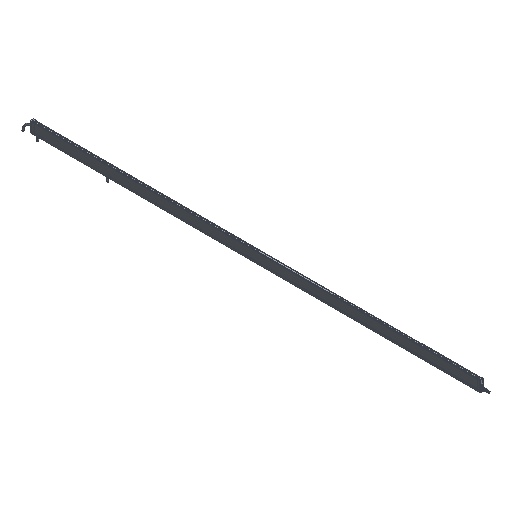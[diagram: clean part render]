
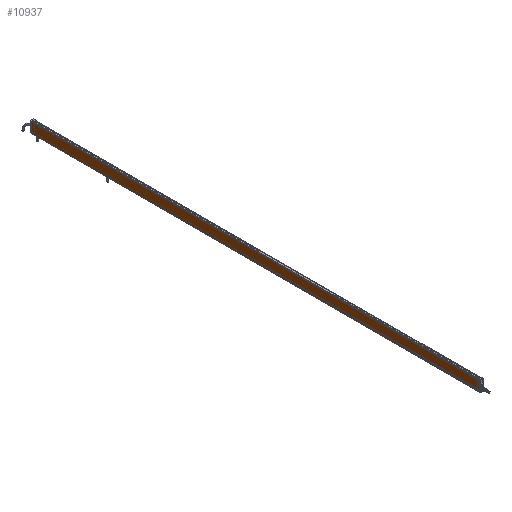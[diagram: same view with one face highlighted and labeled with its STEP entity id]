
A CAD part, isometric view. The second image highlights one B-rep face of the part: STEP entity #10937.
In plain terms, the highlighted planar face has unit normal (-1, 0, 0).
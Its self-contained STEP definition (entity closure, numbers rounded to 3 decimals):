
#221 = VECTOR ( 'NONE', #2889, 1000. ) ;
#488 = VERTEX_POINT ( 'NONE', #1244 ) ;
#566 = DIRECTION ( 'NONE',  ( 0., -1., 0. ) ) ;
#858 = ORIENTED_EDGE ( 'NONE', *, *, #18274, .F. ) ;
#1115 = CARTESIAN_POINT ( 'NONE',  ( -9., 1275., 28.5 ) ) ;
#1152 = DIRECTION ( 'NONE',  ( -1., 0., 0. ) ) ;
#1244 = CARTESIAN_POINT ( 'NONE',  ( -9., 0., 28.5 ) ) ;
#2093 = VERTEX_POINT ( 'NONE', #1115 ) ;
#2342 = EDGE_LOOP ( 'NONE', ( #5354, #858, #17251, #18777 ) ) ;
#2889 = DIRECTION ( 'NONE',  ( 0., -1., 0. ) ) ;
#4176 = AXIS2_PLACEMENT_3D ( 'NONE', #13910, #1152, #10762 ) ;
#4608 = CARTESIAN_POINT ( 'NONE',  ( -9., 1275., 28.5 ) ) ;
#4783 = LINE ( 'NONE', #10950, #16210 ) ;
#5354 = ORIENTED_EDGE ( 'NONE', *, *, #14923, .F. ) ;
#6264 = LINE ( 'NONE', #14649, #17188 ) ;
#7333 = LINE ( 'NONE', #20253, #14034 ) ;
#9809 = FACE_OUTER_BOUND ( 'NONE', #2342, .T. ) ;
#10507 = CARTESIAN_POINT ( 'NONE',  ( -9., 1275., 0.5 ) ) ;
#10762 = DIRECTION ( 'NONE',  ( 0., -1., 0. ) ) ;
#10937 = ADVANCED_FACE ( 'NONE', ( #9809 ), #16920, .T. ) ;
#10950 = CARTESIAN_POINT ( 'NONE',  ( -9., 1275., 28.5 ) ) ;
#13493 = VERTEX_POINT ( 'NONE', #17497 ) ;
#13910 = CARTESIAN_POINT ( 'NONE',  ( -9., 1275., 28.5 ) ) ;
#14034 = VECTOR ( 'NONE', #18464, 1000. ) ;
#14649 = CARTESIAN_POINT ( 'NONE',  ( -9., 1275., 0.5 ) ) ;
#14923 = EDGE_CURVE ( 'NONE', #488, #13493, #7333, .T. ) ;
#16210 = VECTOR ( 'NONE', #17516, 1000. ) ;
#16835 = VERTEX_POINT ( 'NONE', #10507 ) ;
#16891 = LINE ( 'NONE', #4608, #221 ) ;
#16920 = PLANE ( 'NONE',  #4176 ) ;
#17188 = VECTOR ( 'NONE', #566, 1000. ) ;
#17251 = ORIENTED_EDGE ( 'NONE', *, *, #20319, .T. ) ;
#17497 = CARTESIAN_POINT ( 'NONE',  ( -9., 0., 0.5 ) ) ;
#17516 = DIRECTION ( 'NONE',  ( 0., 0., -1. ) ) ;
#18274 = EDGE_CURVE ( 'NONE', #2093, #488, #16891, .T. ) ;
#18464 = DIRECTION ( 'NONE',  ( 0., 0., -1. ) ) ;
#18777 = ORIENTED_EDGE ( 'NONE', *, *, #20504, .T. ) ;
#20253 = CARTESIAN_POINT ( 'NONE',  ( -9., 0., 28.5 ) ) ;
#20319 = EDGE_CURVE ( 'NONE', #2093, #16835, #4783, .T. ) ;
#20504 = EDGE_CURVE ( 'NONE', #16835, #13493, #6264, .T. ) ;
